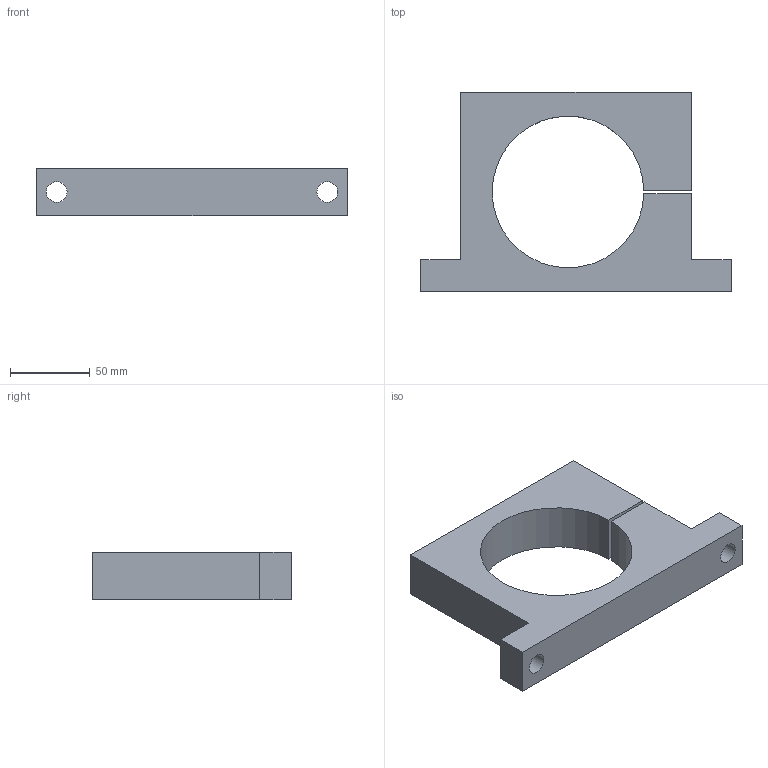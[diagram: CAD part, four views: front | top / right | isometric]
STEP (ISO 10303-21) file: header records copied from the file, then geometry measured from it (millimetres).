
FILE_DESCRIPTION(/* description */ (''),/* implementation_level */ '2;1');
FILE_NAME(/* name */ 'C:\Users\Jefferson\Desktop\Biblioteca Pro Nitro 2024\Flanges\PNB-57-XXX\PNB-57-095.stp',/* time_stamp */ '2024-01-29T10:31:31-03:00',/* author */ ('Jefferson'),/* organization */ (''),/* preprocessor_version */ 'ST-DEVELOPER v18.1',/* originating_system */ 'Autodesk Inventor 2021',/* authorisation */ '');
FILE_SCHEMA (('AUTOMOTIVE_DESIGN { 1 0 10303 214 3 1 1 }'));
Length unit declared in the file: millimetre
Products named in the file (1): PNB-57-095
Bounding box: 195 x 125 x 30 mm (x, y, z)
Volume: 339849.8 mm3; surface area: 58120.5 mm2
Topology: 1 solids, 1 shells, 174 faces, 474 edges, 318 vertices
Faces by surface type: plane 88, bspline 79, cylinder 6, cone 1
Full cylindrical faces by diameter (mm): 10.106 x1, 13 x2, 13.5 x1, 20 x1
Entity records: 5927 total; most frequent: CARTESIAN_POINT 1993, ORIENTED_EDGE 946, DIRECTION 526, EDGE_CURVE 473, VERTEX_POINT 318, LINE 296, VECTOR 296, EDGE_LOOP 197
